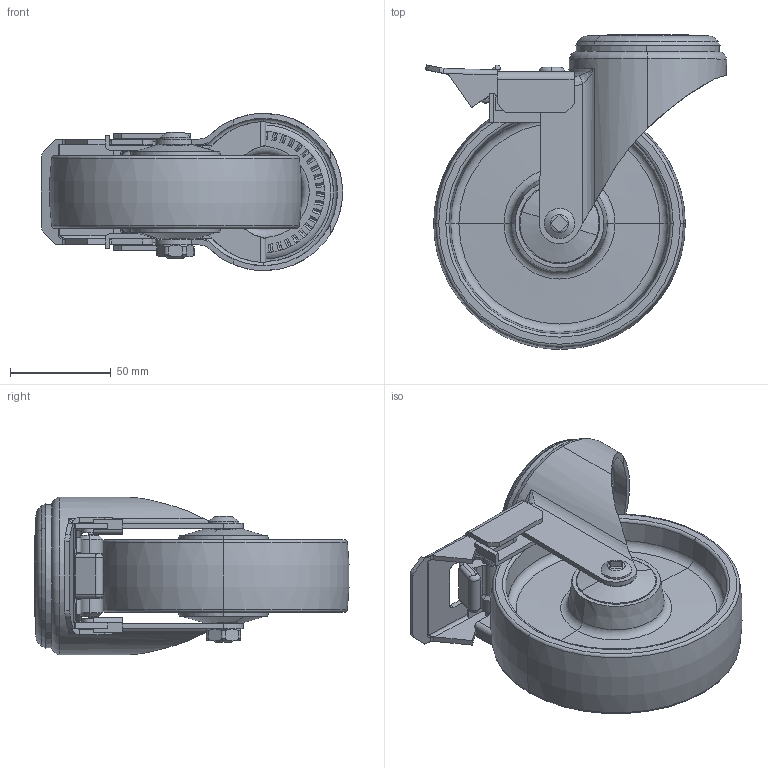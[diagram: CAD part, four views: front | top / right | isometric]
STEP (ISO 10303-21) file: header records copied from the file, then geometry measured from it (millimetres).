
FILE_DESCRIPTION (( 'STEP AP203' ), '1' );
FILE_NAME ('400544_STEP.STEP', '2011-08-26T11:19:09', ( '' ), ( '' ), 'SwSTEP 2.0', 'SolidWorks 2011', '' );
FILE_SCHEMA (( 'CONFIG_CONTROL_DESIGN' ));
Length unit declared in the file: millimetre
Products named in the file (1): 400544_STEP
Bounding box: 149.27 x 155.72 x 78 mm (x, y, z)
Surface area: 110015 mm2 (no closed solid volume)
Topology: 0 solids, 24 shells, 521 faces, 1793 edges, 1235 vertices
Faces by surface type: plane 251, cylinder 139, torus 66, cone 51, bspline 10, sphere 4
Entity records: 20383 total; most frequent: CARTESIAN_POINT 5028, DIRECTION 3259, ORIENTED_EDGE 2972, EDGE_CURVE 1789, VERTEX_POINT 1235, AXIS2_PLACEMENT_3D 1155, VECTOR 949, LINE 949
